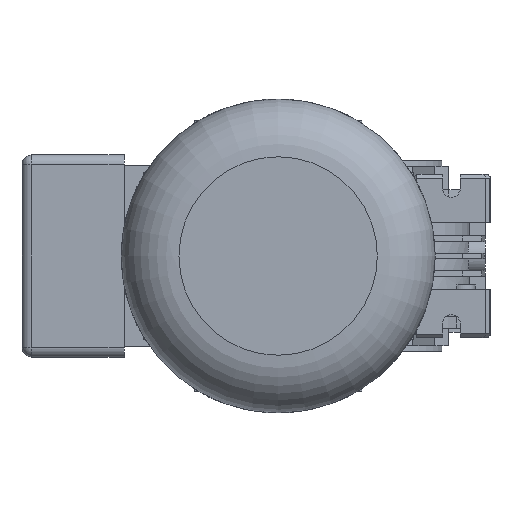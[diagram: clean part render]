
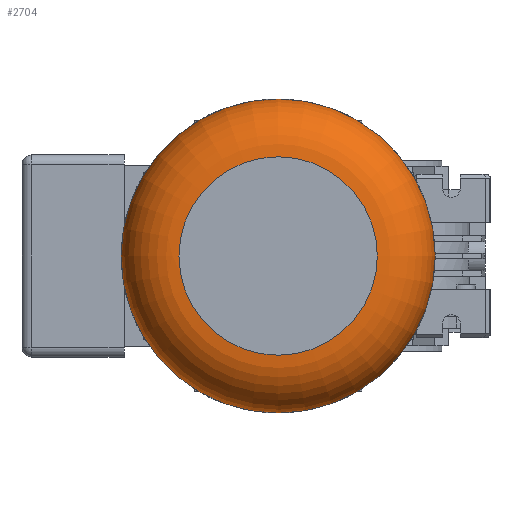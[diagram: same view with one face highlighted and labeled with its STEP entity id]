
A CAD part, left-side view. The second image highlights one B-rep face of the part: STEP entity #2704.
In plain terms, the highlighted toroidal (fillet/blend) face has major radius 51.5 mm and minor radius 30 mm.
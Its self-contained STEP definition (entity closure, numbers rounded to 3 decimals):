
#2704 = ADVANCED_FACE( '', ( #5944, #5945 ), #5946, .T. );
#5944 = FACE_OUTER_BOUND( '', #9696, .T. );
#5945 = FACE_OUTER_BOUND( '', #9697, .T. );
#5946 = TOROIDAL_SURFACE( '', #9698, 51.5, 30. );
#9696 = EDGE_LOOP( '', ( #18078 ) );
#9697 = EDGE_LOOP( '', ( #18079 ) );
#9698 = AXIS2_PLACEMENT_3D( '', #18080, #18081, #18082 );
#18078 = ORIENTED_EDGE( '', *, *, #22583, .F. );
#18079 = ORIENTED_EDGE( '', *, *, #25691, .F. );
#18080 = CARTESIAN_POINT( '', ( -302.5, 50., 0. ) );
#18081 = DIRECTION( '', ( -1., 0., 0. ) );
#18082 = DIRECTION( '', ( 0., 1., 0. ) );
#22583 = EDGE_CURVE( '', #27214, #27214, #27215, .T. );
#25691 = EDGE_CURVE( '', #32036, #32036, #32037, .F. );
#27214 = VERTEX_POINT( '', #33933 );
#27215 = CIRCLE( '', #33934, 51.5 );
#32036 = VERTEX_POINT( '', #41022 );
#32037 = CIRCLE( '', #41023, 81.5 );
#33933 = CARTESIAN_POINT( '', ( -332.5, 101.5, 0. ) );
#33934 = AXIS2_PLACEMENT_3D( '', #42770, #42771, #42772 );
#41022 = CARTESIAN_POINT( '', ( -302.5, 131.5, 0. ) );
#41023 = AXIS2_PLACEMENT_3D( '', #46171, #46172, #46173 );
#42770 = CARTESIAN_POINT( '', ( -332.5, 50., 0. ) );
#42771 = DIRECTION( '', ( -1., 0., 0. ) );
#42772 = DIRECTION( '', ( 0., 1., 0. ) );
#46171 = CARTESIAN_POINT( '', ( -302.5, 50., 0. ) );
#46172 = DIRECTION( '', ( -1., 0., 0. ) );
#46173 = DIRECTION( '', ( 0., 1., 0. ) );
